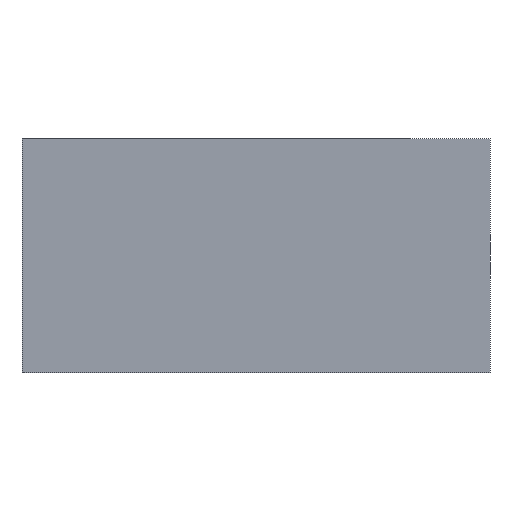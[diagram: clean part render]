
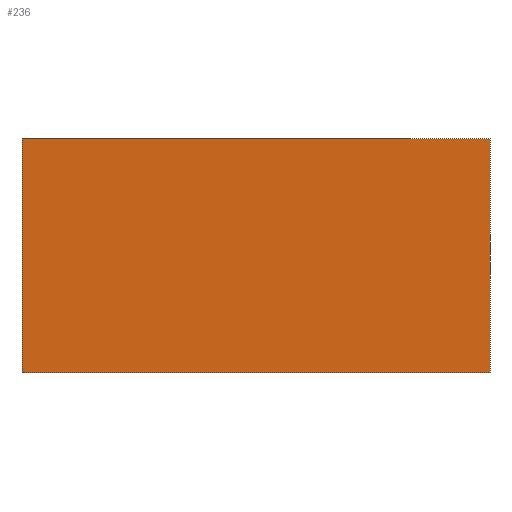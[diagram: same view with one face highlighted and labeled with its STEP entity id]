
A CAD part, front view. The second image highlights one B-rep face of the part: STEP entity #236.
In plain terms, the highlighted planar face has unit normal (-0.087, -0.996, 0).
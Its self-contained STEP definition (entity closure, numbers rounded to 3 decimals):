
#26=LINE('',#367,#52);
#32=LINE('',#378,#58);
#38=LINE('',#390,#64);
#39=LINE('',#392,#65);
#52=VECTOR('',#303,10.);
#58=VECTOR('',#311,10.);
#64=VECTOR('',#323,10.);
#65=VECTOR('',#326,10.);
#82=FACE_OUTER_BOUND('',#97,.T.);
#97=EDGE_LOOP('',(#198,#199,#200,#201));
#116=VERTEX_POINT('',#364);
#117=VERTEX_POINT('',#366);
#120=VERTEX_POINT('',#374);
#124=VERTEX_POINT('',#388);
#140=EDGE_CURVE('',#116,#117,#26,.T.);
#146=EDGE_CURVE('',#117,#120,#32,.T.);
#152=EDGE_CURVE('',#116,#124,#38,.T.);
#153=EDGE_CURVE('',#120,#124,#39,.T.);
#198=ORIENTED_EDGE('',*,*,#140,.F.);
#199=ORIENTED_EDGE('',*,*,#152,.T.);
#200=ORIENTED_EDGE('',*,*,#153,.F.);
#201=ORIENTED_EDGE('',*,*,#146,.F.);
#223=PLANE('',#267);
#236=ADVANCED_FACE('',(#82),#223,.T.);
#267=AXIS2_PLACEMENT_3D('',#391,#324,#325);
#303=DIRECTION('',(-0.996,0.087,0.));
#311=DIRECTION('',(0.,0.,1.));
#323=DIRECTION('',(0.,0.,1.));
#324=DIRECTION('center_axis',(-0.087,-0.996,0.));
#325=DIRECTION('ref_axis',(0.996,-0.087,0.));
#326=DIRECTION('',(0.996,-0.087,0.));
#364=CARTESIAN_POINT('',(0.,-17.494,0.));
#366=CARTESIAN_POINT('',(-60.,-12.245,0.));
#367=CARTESIAN_POINT('',(0.,-17.494,0.));
#374=CARTESIAN_POINT('',(-60.,-12.245,30.));
#378=CARTESIAN_POINT('',(-60.,-12.245,0.));
#388=CARTESIAN_POINT('',(0.,-17.494,30.));
#390=CARTESIAN_POINT('',(0.,-17.494,0.));
#391=CARTESIAN_POINT('Origin',(-60.,-12.245,0.));
#392=CARTESIAN_POINT('',(0.,-17.494,30.));
